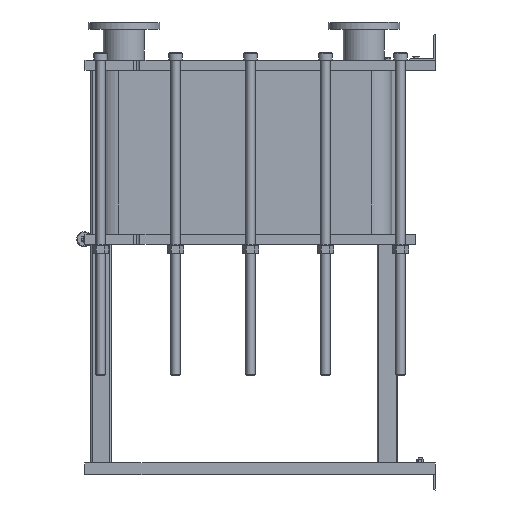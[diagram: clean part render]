
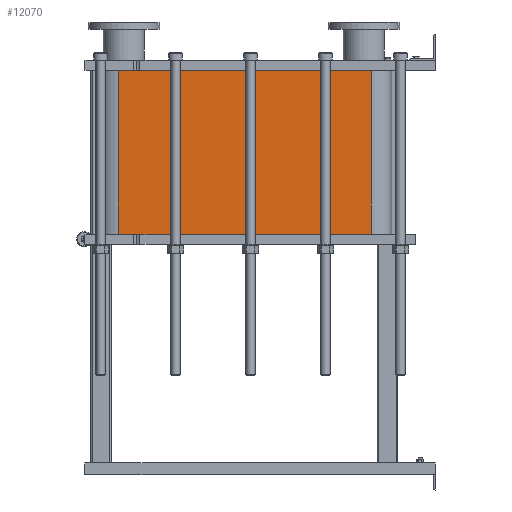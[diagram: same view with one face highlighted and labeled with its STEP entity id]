
A CAD part, left-side view. The second image highlights one B-rep face of the part: STEP entity #12070.
In plain terms, the highlighted planar face has unit normal (-1, 0, 0).
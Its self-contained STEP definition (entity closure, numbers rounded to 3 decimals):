
#1064=LINE('',#21140,#2164);
#1065=LINE('',#21144,#2165);
#1066=LINE('',#21146,#2166);
#1067=LINE('',#21147,#2167);
#2164=VECTOR('',#15790,10.);
#2165=VECTOR('',#15795,10.);
#2166=VECTOR('',#15796,10.);
#2167=VECTOR('',#15797,10.);
#3304=FACE_OUTER_BOUND('',#4091,.T.);
#4091=EDGE_LOOP('',(#9793,#9794,#9795,#9796));
#5677=VERTEX_POINT('',#21137);
#5678=VERTEX_POINT('',#21139);
#5679=VERTEX_POINT('',#21143);
#5680=VERTEX_POINT('',#21145);
#7118=EDGE_CURVE('',#5678,#5677,#1064,.T.);
#7120=EDGE_CURVE('',#5677,#5679,#1065,.T.);
#7121=EDGE_CURVE('',#5680,#5679,#1066,.T.);
#7122=EDGE_CURVE('',#5680,#5678,#1067,.T.);
#9793=ORIENTED_EDGE('',*,*,#7120,.T.);
#9794=ORIENTED_EDGE('',*,*,#7121,.F.);
#9795=ORIENTED_EDGE('',*,*,#7122,.T.);
#9796=ORIENTED_EDGE('',*,*,#7118,.T.);
#11441=PLANE('',#13191);
#12070=ADVANCED_FACE('',(#3304),#11441,.T.);
#13191=AXIS2_PLACEMENT_3D('',#21142,#15793,#15794);
#15790=DIRECTION('',(0.,0.,-1.));
#15793=DIRECTION('center_axis',(-1.,0.,0.));
#15794=DIRECTION('ref_axis',(0.,1.,0.));
#15795=DIRECTION('',(0.,-1.,0.));
#15796=DIRECTION('',(0.,0.,-1.));
#15797=DIRECTION('',(0.,1.,0.));
#21137=CARTESIAN_POINT('',(-248.152,1243.818,-641.7));
#21139=CARTESIAN_POINT('',(-248.152,1243.818,0.));
#21140=CARTESIAN_POINT('',(-248.152,1243.818,0.));
#21142=CARTESIAN_POINT('Origin',(-248.152,251.818,0.));
#21143=CARTESIAN_POINT('',(-248.152,251.818,-641.7));
#21144=CARTESIAN_POINT('',(-248.152,499.818,-641.7));
#21145=CARTESIAN_POINT('',(-248.152,251.818,0.));
#21146=CARTESIAN_POINT('',(-248.152,251.818,0.));
#21147=CARTESIAN_POINT('',(-248.152,251.818,0.));
